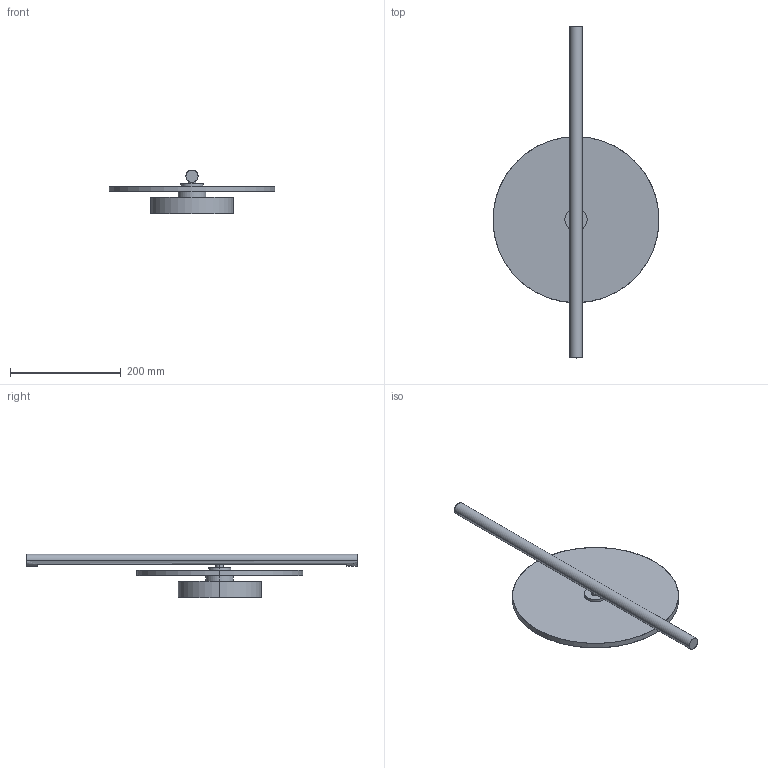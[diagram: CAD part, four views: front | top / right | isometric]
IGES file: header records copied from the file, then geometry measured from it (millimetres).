
Start section: SolidWorks IGES file using analytic representation for surfaces
Global section: file name: C:\Users\Agustin\Desktop\ARNOLD\2024 SEPTIEMBRE\2D\POINT\2D-3D A1328\POINT_A1328.IGS; native system: SolidWorks 2018; preprocessor: SolidWorks 2018; author: Agustin; date: 240919.114228; units: millimetre
Bounding box: 300 x 600 x 79 mm (x, y, z)
Surface area: 252360.8 mm2 (no closed solid volume)
Topology: 0 solids, 0 shells, 39 faces, 1002 edges, 1002 vertices
Faces by surface type: revolution 20, bspline 19
